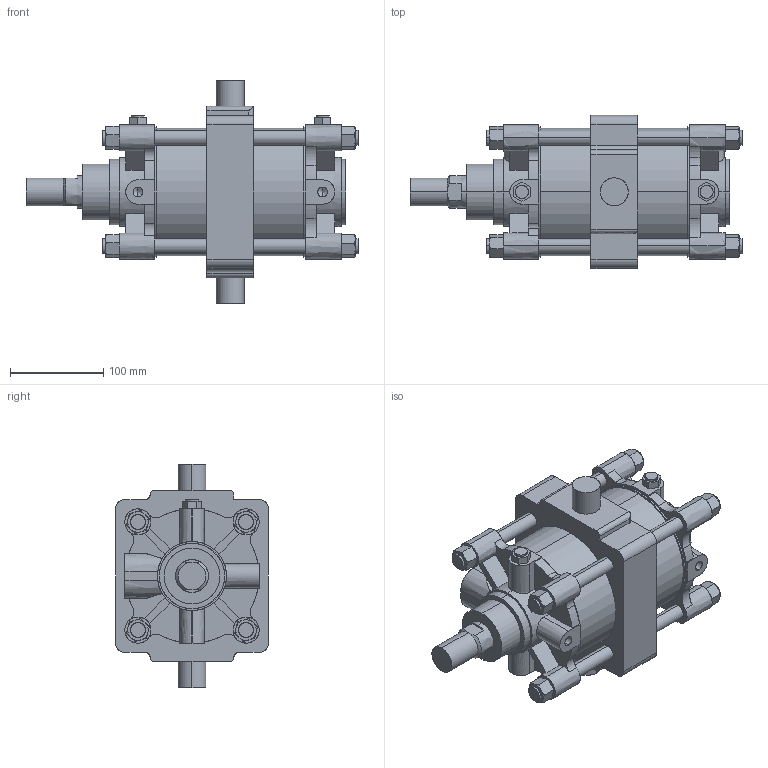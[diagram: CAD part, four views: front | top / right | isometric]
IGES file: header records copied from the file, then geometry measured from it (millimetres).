
Start section: SolidWorks IGES file using analytic representation for surfaces
Global section: file name: C:\Users\Toshiba\Desktop\A##2-125#-100-T.IGS; native system: SolidWorks 2014; preprocessor: SolidWorks 2014; author: Toshiba; date: 160331.145142; units: millimetre
Bounding box: 356 x 164 x 240 mm (x, y, z)
Surface area: 448947.5 mm2 (no closed solid volume)
Topology: 0 solids, 0 shells, 425 faces, 7962 edges, 7950 vertices
Faces by surface type: bspline 245, revolution 180
